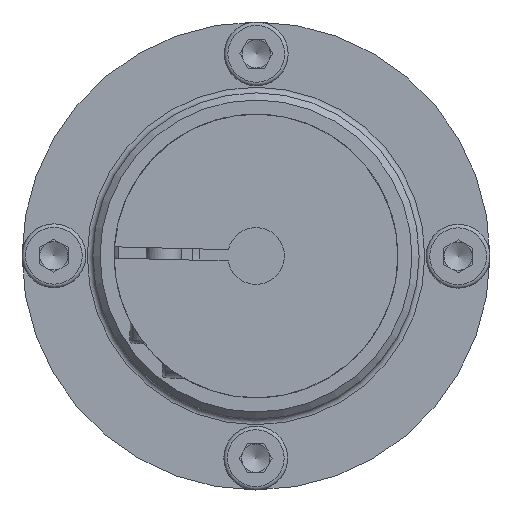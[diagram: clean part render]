
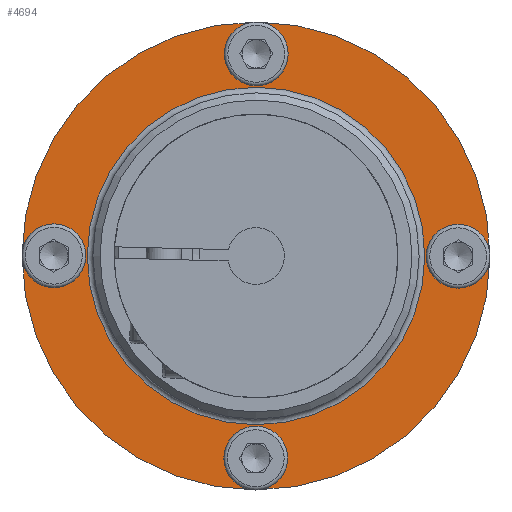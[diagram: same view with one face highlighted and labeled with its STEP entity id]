
A CAD part, left-side view. The second image highlights one B-rep face of the part: STEP entity #4694.
In plain terms, the highlighted planar face has unit normal (-1, 0, 0) as drawn and (1, 0, 0) by its records, which use the part's own axes.
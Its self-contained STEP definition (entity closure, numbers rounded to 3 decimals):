
#439=PLANE('',#5021);
#770=ORIENTED_EDGE('',*,*,#1577,.T.);
#771=ORIENTED_EDGE('',*,*,#1550,.T.);
#772=ORIENTED_EDGE('',*,*,#1552,.T.);
#773=ORIENTED_EDGE('',*,*,#1554,.T.);
#774=ORIENTED_EDGE('',*,*,#1578,.T.);
#775=ORIENTED_EDGE('',*,*,#1579,.F.);
#1550=EDGE_CURVE('',#2597,#2597,#1964,.T.);
#1552=EDGE_CURVE('',#2599,#2599,#1966,.T.);
#1554=EDGE_CURVE('',#2601,#2601,#1968,.T.);
#1577=EDGE_CURVE('',#2624,#2624,#1991,.T.);
#1578=EDGE_CURVE('',#2625,#2625,#1992,.T.);
#1579=EDGE_CURVE('',#2626,#2626,#1993,.T.);
#1964=CIRCLE('',#4980,1.35);
#1966=CIRCLE('',#4983,1.35);
#1968=CIRCLE('',#4986,1.35);
#1991=CIRCLE('',#5022,11.9);
#1992=CIRCLE('',#5023,1.35);
#1993=CIRCLE('',#5024,16.5);
#2305=EDGE_LOOP('',(#770));
#2306=EDGE_LOOP('',(#771));
#2307=EDGE_LOOP('',(#772));
#2308=EDGE_LOOP('',(#773));
#2309=EDGE_LOOP('',(#774));
#2310=EDGE_LOOP('',(#775));
#2597=VERTEX_POINT('',#6833);
#2599=VERTEX_POINT('',#6838);
#2601=VERTEX_POINT('',#6843);
#2624=VERTEX_POINT('',#6902);
#2625=VERTEX_POINT('',#6904);
#2626=VERTEX_POINT('',#6906);
#3000=FACE_BOUND('',#2305,.T.);
#3001=FACE_BOUND('',#2306,.T.);
#3002=FACE_BOUND('',#2307,.T.);
#3003=FACE_BOUND('',#2308,.T.);
#3004=FACE_BOUND('',#2309,.T.);
#3005=FACE_BOUND('',#2310,.T.);
#4694=ADVANCED_FACE('',(#3000,#3001,#3002,#3003,#3004,#3005),#439,.F.);
#4980=AXIS2_PLACEMENT_3D('',#6832,#5609,#5610);
#4983=AXIS2_PLACEMENT_3D('',#6837,#5615,#5616);
#4986=AXIS2_PLACEMENT_3D('',#6842,#5621,#5622);
#5021=AXIS2_PLACEMENT_3D('',#6900,#5691,#5692);
#5022=AXIS2_PLACEMENT_3D('',#6901,#5693,#5694);
#5023=AXIS2_PLACEMENT_3D('',#6903,#5695,#5696);
#5024=AXIS2_PLACEMENT_3D('',#6905,#5697,#5698);
#5609=DIRECTION('',(-1.,0.,0.));
#5610=DIRECTION('',(0.,-1.,0.));
#5615=DIRECTION('',(-1.,0.,0.));
#5616=DIRECTION('',(0.,0.,-1.));
#5621=DIRECTION('',(-1.,0.,0.));
#5622=DIRECTION('',(0.,1.,0.));
#5691=DIRECTION('',(-1.,0.,0.));
#5692=DIRECTION('',(0.,0.,1.));
#5693=DIRECTION('',(-1.,0.,0.));
#5694=DIRECTION('',(0.,0.,1.));
#5695=DIRECTION('',(-1.,0.,0.));
#5696=DIRECTION('',(0.,0.,1.));
#5697=DIRECTION('',(-1.,0.,0.));
#5698=DIRECTION('',(0.,0.,1.));
#6832=CARTESIAN_POINT('',(4.,0.,14.25));
#6833=CARTESIAN_POINT('',(4.,-1.35,14.25));
#6837=CARTESIAN_POINT('',(4.,-14.25,0.));
#6838=CARTESIAN_POINT('',(4.,-14.25,-1.35));
#6842=CARTESIAN_POINT('',(4.,0.,-14.25));
#6843=CARTESIAN_POINT('',(4.,1.35,-14.25));
#6900=CARTESIAN_POINT('',(4.,0.,16.5));
#6901=CARTESIAN_POINT('',(4.,0.,0.));
#6902=CARTESIAN_POINT('',(4.,0.,11.9));
#6903=CARTESIAN_POINT('',(4.,14.25,0.));
#6904=CARTESIAN_POINT('',(4.,14.25,1.35));
#6905=CARTESIAN_POINT('',(4.,0.,0.));
#6906=CARTESIAN_POINT('',(4.,0.,16.5));
